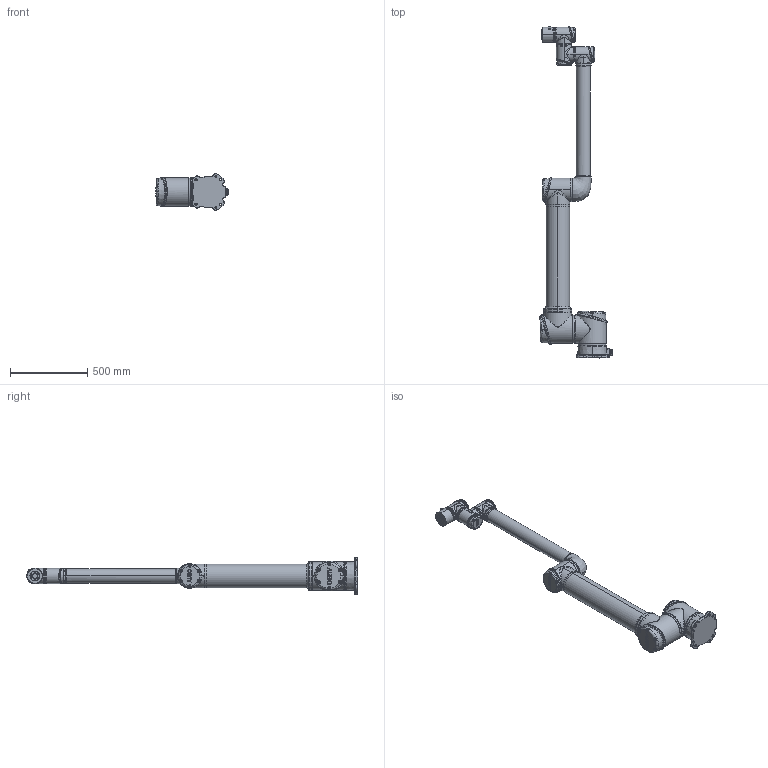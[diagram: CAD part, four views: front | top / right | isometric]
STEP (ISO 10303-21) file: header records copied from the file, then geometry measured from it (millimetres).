
FILE_DESCRIPTION (( 'STEP AP203' ), '1' );
FILE_NAME ('iS16-Pro´øÁ¦¿Ø.STEP', '2026-06-30T08:45:23', ( '' ), ( '' ), 'SwSTEP 2.0', 'SolidWorks 2024', '' );
FILE_SCHEMA (( 'CONFIG_CONTROL_DESIGN' ));
Length unit declared in the file: millimetre
Products named in the file (7): iS20-底座简化; iS16-小臂管875; M20P-关节简化; M40P-关节简化; C1-B1098D-简化; iS16-Pro带力控; iS16-大臂管外发900
Assembly tree (7 placements, depth 2):
  iS16-Pro带力控
    iS20-底座简化
    M40P-关节简化
    iS16-大臂管外发900
    M20P-关节简化  x2
    C1-B1098D-简化
    iS16-小臂管875
Bounding box: 465.4 x 2142.5 x 235.36 mm (x, y, z)
Volume: 19185620.9 mm3; surface area: 1880002.8 mm2
Topology: 14 solids, 53 shells, 3222 faces, 8087 edges, 5176 vertices
Faces by surface type: plane 1046, cylinder 764, bspline 717, torus 349, cone 276, sphere 70
Entity records: 166013 total; most frequent: CARTESIAN_POINT 101912, ORIENTED_EDGE 14645, DIRECTION 11083, EDGE_CURVE 7324, VERTEX_POINT 4687, AXIS2_PLACEMENT_3D 4532, EDGE_LOOP 3214, ADVANCED_FACE 2951
